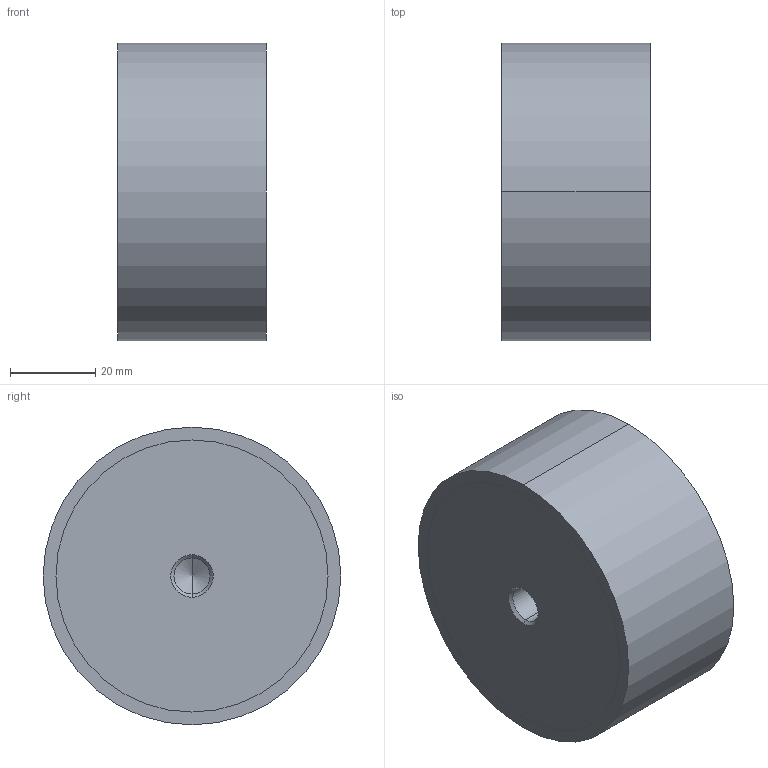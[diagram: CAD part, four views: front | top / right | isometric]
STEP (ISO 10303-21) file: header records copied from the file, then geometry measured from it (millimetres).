
FILE_DESCRIPTION (( 'STEP AP214' ), '1' );
FILE_NAME ('351-70-35-M10-EE-40.step', '2025-07-23T09:56:34', ( '' ), ( '' ), 'SwSTEP 2.0', 'SolidWorks 2022', '' );
FILE_SCHEMA (( 'AUTOMOTIVE_DESIGN' ));
Length unit declared in the file: millimetre
Products named in the file (1): 351-70-35-M10-EE-40
Bounding box: 35 x 70 x 70 mm (x, y, z)
Volume: 133257 mm3; surface area: 15990 mm2
Topology: 1 solids, 1 shells, 28 faces, 58 edges, 34 vertices
Faces by surface type: cylinder 14, cone 8, plane 6
Entity records: 844 total; most frequent: DIRECTION 144, CARTESIAN_POINT 117, ORIENTED_EDGE 108, AXIS2_PLACEMENT_3D 61, EDGE_CURVE 54, EDGE_LOOP 34, VERTEX_POINT 34, CIRCLE 32
